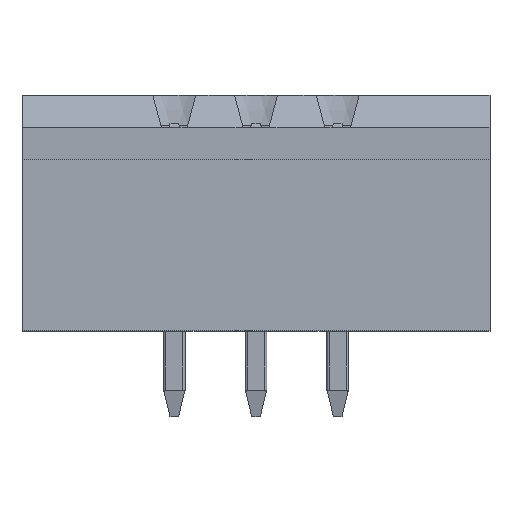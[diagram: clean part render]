
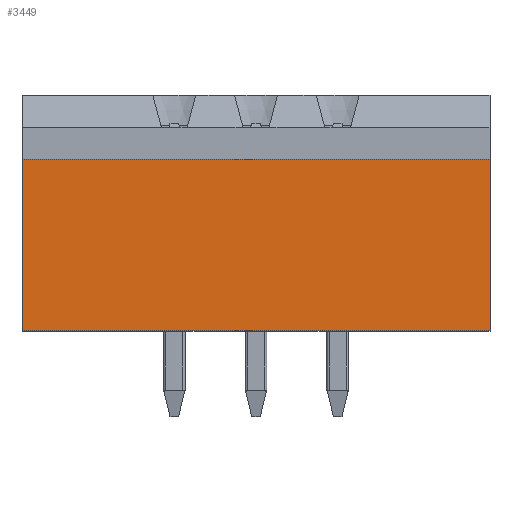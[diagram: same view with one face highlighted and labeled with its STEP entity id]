
A CAD part, top view. The second image highlights one B-rep face of the part: STEP entity #3449.
In plain terms, the highlighted planar face has unit normal (0, 0, 1).
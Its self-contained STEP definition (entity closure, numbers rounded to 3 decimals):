
#359=DIRECTION('',(1.,0.,0.));
#360=VECTOR('',#359,21.82);
#361=CARTESIAN_POINT('',(0.,12.,-0.7));
#362=LINE('',#361,#360);
#363=DIRECTION('',(-1.,0.,0.));
#364=VECTOR('',#363,21.82);
#365=CARTESIAN_POINT('',(21.82,4.,-0.7));
#366=LINE('',#365,#364);
#618=DIRECTION('',(0.,1.,0.));
#619=VECTOR('',#618,8.);
#620=CARTESIAN_POINT('',(21.82,4.,-0.7));
#621=LINE('',#620,#619);
#966=DIRECTION('',(0.,-1.,0.));
#967=VECTOR('',#966,8.);
#968=CARTESIAN_POINT('',(0.,12.,-0.7));
#969=LINE('',#968,#967);
#2318=CARTESIAN_POINT('',(21.82,4.,-0.7));
#2319=CARTESIAN_POINT('',(0.,4.,-0.7));
#2320=VERTEX_POINT('',#2318);
#2321=VERTEX_POINT('',#2319);
#2354=CARTESIAN_POINT('',(0.,12.,-0.7));
#2355=CARTESIAN_POINT('',(21.82,12.,-0.7));
#2356=VERTEX_POINT('',#2354);
#2357=VERTEX_POINT('',#2355);
#3435=CARTESIAN_POINT('',(4.195,12.,-0.7));
#3436=DIRECTION('',(0.,0.,1.));
#3437=DIRECTION('',(0.,-1.,0.));
#3438=AXIS2_PLACEMENT_3D('',#3435,#3436,#3437);
#3439=PLANE('',#3438);
#3441=ORIENTED_EDGE('',*,*,#3440,.T.);
#3443=ORIENTED_EDGE('',*,*,#3442,.F.);
#3444=ORIENTED_EDGE('',*,*,#3378,.T.);
#3446=ORIENTED_EDGE('',*,*,#3445,.F.);
#3447=EDGE_LOOP('',(#3441,#3443,#3444,#3446));
#3448=FACE_OUTER_BOUND('',#3447,.F.);
#3449=ADVANCED_FACE('',(#3448),#3439,.T.);
#3378=EDGE_CURVE('',#2320,#2321,#366,.T.);
#3440=EDGE_CURVE('',#2356,#2357,#362,.T.);
#3442=EDGE_CURVE('',#2320,#2357,#621,.T.);
#3445=EDGE_CURVE('',#2356,#2321,#969,.T.);
